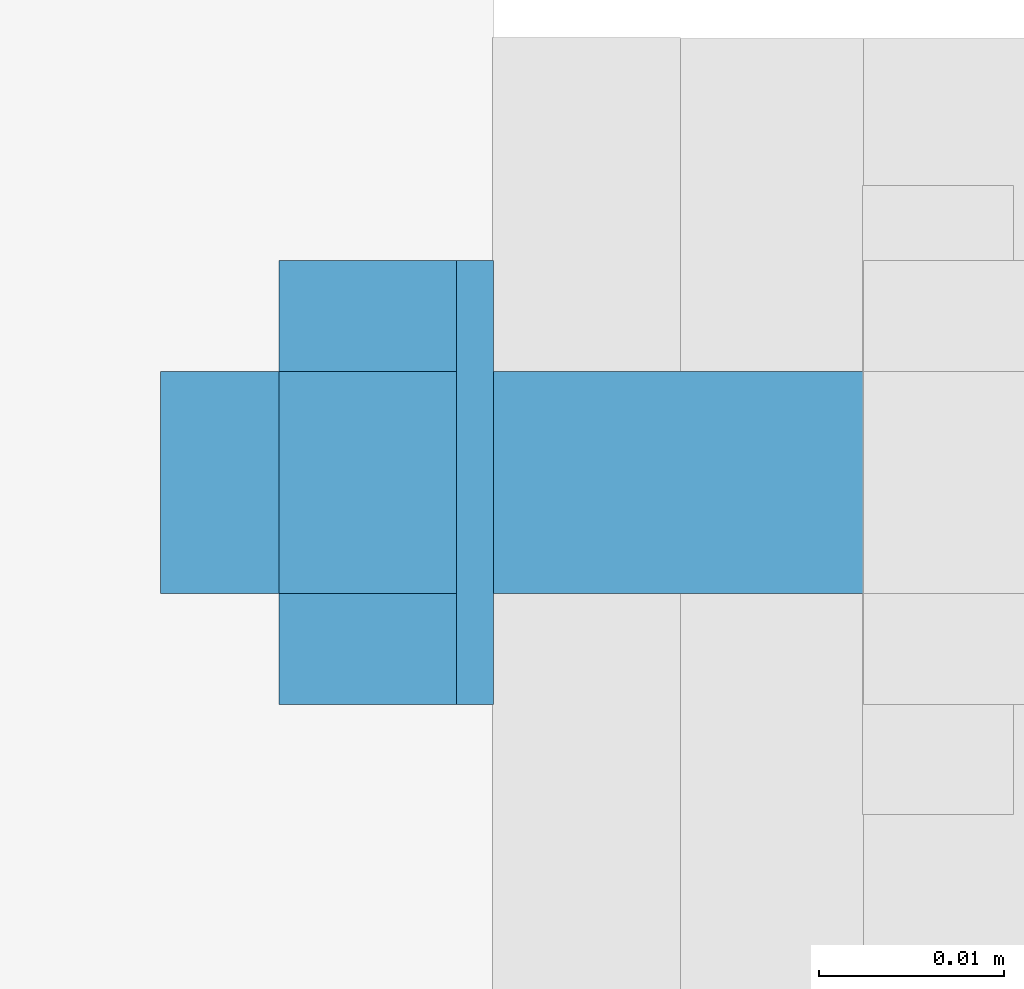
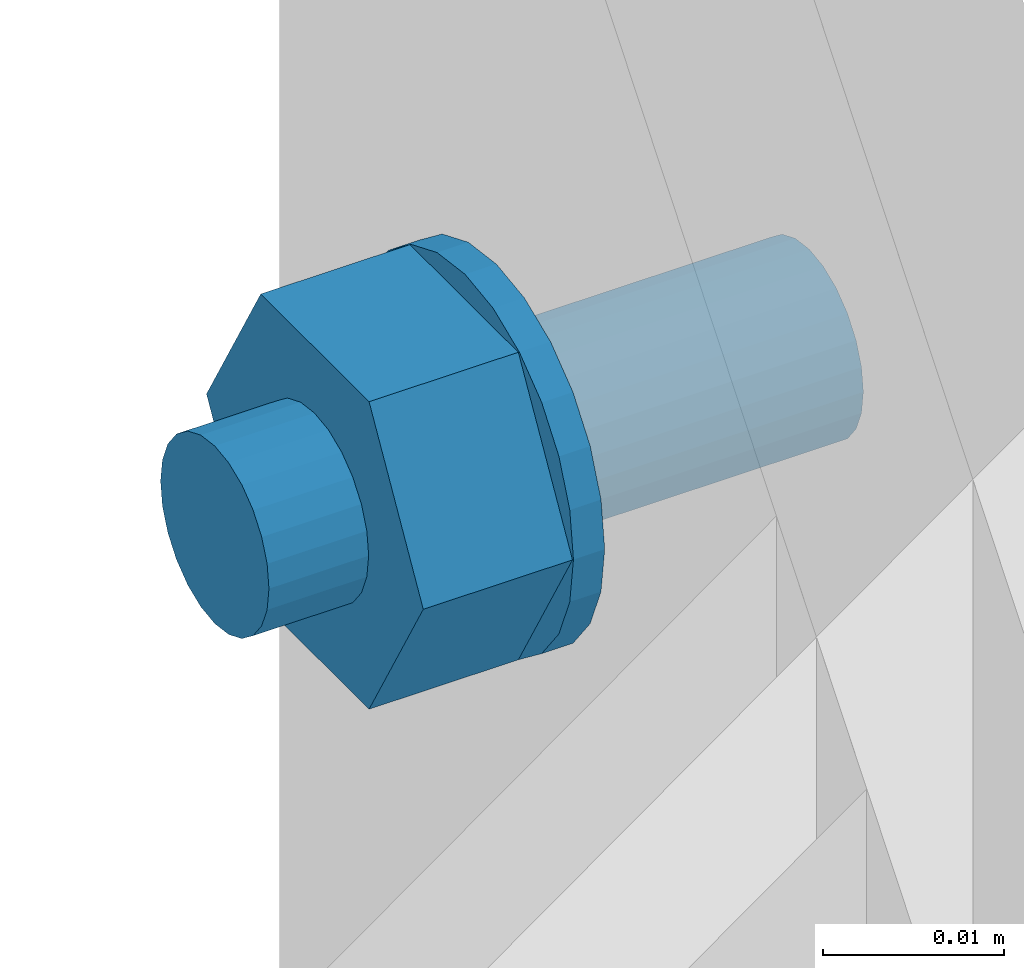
# One storey, part 46 of 66: 3 mechanical fasteners.
"""IFC4 building model written with IfcOpenShell, lengths in metres."""

import ifcopenshell
import ifcopenshell.guid

model = None  # the IFC model being written
_history = None  # IfcOwnerHistory: only IFC2X3 demands one
_inside = {}  # id of a spatial element -> (the spatial element, [elements in it])
_under = {}  # id of a project, library or spatial element -> (it, [spatial elements below it])
_declared = {}  # id of a project -> (the project, [libraries it declares])
_typed = {}  # id of a type object -> (the type object, [elements of that type])
_made_of = {}  # id of a material, layer set ... -> (it, [elements and type objects made of it])


def new_model(schema):
    """Start an empty IFC model of exactly this schema.

    Asked for "IFC4X3", IfcOpenShell would pick the latest addendum, in which some entities
    have other attributes; the version numbers below select the first issue.
    IFC2X3 requires an IfcOwnerHistory on every rooted entity: one is made here for all.
    """
    global model, _history
    if schema == "IFC4X3":
        model = ifcopenshell.file(schema_version=(4, 3, 0, 0))
    else:
        model = ifcopenshell.file(schema=schema)
    _inside.clear()
    _under.clear()
    _declared.clear()
    _typed.clear()
    _made_of.clear()
    _history = None
    if model.schema == "IFC2X3":
        org = make("IfcOrganization", Name="unknown")
        user = make(
            "IfcPersonAndOrganization",
            ThePerson=make("IfcPerson", FamilyName="unknown"),
            TheOrganization=org,
        )
        app = make(
            "IfcApplication",
            ApplicationDeveloper=org,
            Version="unknown",
            ApplicationFullName="unknown",
            ApplicationIdentifier="unknown",
        )
        _history = make(
            "IfcOwnerHistory",
            OwningUser=user,
            OwningApplication=app,
            ChangeAction="ADDED",
            CreationDate=0,
        )
    return model


def make(cls, **values):
    """One entity of the class cls with the attributes given. An attribute that is None is left unset."""
    return model.create_entity(
        cls, **{name: value for name, value in values.items() if value is not None}
    )


def rooted(cls, **values):
    """An entity with a GlobalId (a new one), such as an element, a storey or a relation."""
    return make(cls, GlobalId=ifcopenshell.guid.new(), OwnerHistory=_history, **values)


def si_unit(unit_type, name, prefix=None):
    """IfcSIUnit, for example si_unit("LENGTHUNIT", "METRE", prefix="MILLI")."""
    return make("IfcSIUnit", UnitType=unit_type, Prefix=prefix, Name=name)


def assignment(units):
    """IfcUnitAssignment: the units of a project."""
    return None if units is None else make("IfcUnitAssignment", Units=units)


def point(xyz):
    """IfcCartesianPoint."""
    return None if xyz is None else make("IfcCartesianPoint", Coordinates=xyz)


def direction(xyz):
    """IfcDirection."""
    return None if xyz is None else make("IfcDirection", DirectionRatios=xyz)


def frame(location, z_axis=None, x_axis=None):
    """IfcAxis2Placement3D, a coordinate frame: its origin and axes. An axis left out is left unset."""
    return make(
        "IfcAxis2Placement3D",
        Location=point(location),
        Axis=direction(z_axis),
        RefDirection=direction(x_axis),
    )


def origin_with_axes():
    """The frame at (0, 0, 0) with the z axis (0, 0, 1) and the x axis (1, 0, 0) written out."""
    return frame((0.0, 0.0, 0.0), z_axis=(0.0, 0.0, 1.0), x_axis=(1.0, 0.0, 0.0))


def place(relative_to, where):
    """IfcLocalPlacement: puts the frame where relative to a parent placement (None: the world)."""
    return make(
        "IfcLocalPlacement", PlacementRelTo=relative_to, RelativePlacement=where
    )


def context(
    kind, dimensions, precision=None, world=None, true_north=None, identifier=None
):
    """IfcGeometricRepresentationContext, for example the 3D "Model" context."""
    return make(
        "IfcGeometricRepresentationContext",
        ContextIdentifier=identifier,
        ContextType=kind,
        CoordinateSpaceDimension=dimensions,
        Precision=precision,
        WorldCoordinateSystem=world,
        TrueNorth=true_north,
    )


def project(units=None, contexts=None):
    """IfcProject with its units and contexts."""
    return rooted(
        "IfcProject",
        Name="project",
        RepresentationContexts=contexts,
        UnitsInContext=assignment(units),
    )


def spatial(cls, under=None, at=None, **own):
    """A site, building, storey or space (cls), placed at a placement, below another one or the project."""
    s = rooted(cls, ObjectPlacement=at, **own)
    if under is not None:
        _under.setdefault(under.id(), (under, []))[1].append(s)
    return s


def polyline(points):
    """IfcPolyline through the points."""
    return make("IfcPolyline", Points=[point(p) for p in points])


def outline(outer, holes=None, kind="AREA"):
    """IfcArbitraryClosedProfileDef: a profile drawn as a closed curve; with holes, ...WithVoids."""
    if holes is None:
        return make("IfcArbitraryClosedProfileDef", ProfileType=kind, OuterCurve=outer)
    return make(
        "IfcArbitraryProfileDefWithVoids",
        ProfileType=kind,
        OuterCurve=outer,
        InnerCurves=holes,
    )


def extrude(swept, where, along, depth):
    """IfcExtrudedAreaSolid: the profile swept, set in the frame where, extruded along a direction by depth."""
    return make(
        "IfcExtrudedAreaSolid",
        SweptArea=swept,
        Position=where,
        ExtrudedDirection=direction(along),
        Depth=depth,
    )


def shape(context_of_items, identifier, shape_type, items):
    """IfcShapeRepresentation: the items that make up one representation, for example the "Body"."""
    return make(
        "IfcShapeRepresentation",
        ContextOfItems=context_of_items,
        RepresentationIdentifier=identifier,
        RepresentationType=shape_type,
        Items=items,
    )


def made_of(thing, what):
    """Note that an element or type object is made of a material, layer set ...; save() writes the relation."""
    if what is not None:
        _made_of.setdefault(what.id(), (what, []))[1].append(thing)
    return thing


def type_object(cls, material=None, **own):
    """A type object (cls), such as IfcWallType, which elements share."""
    return made_of(rooted(cls, **own), material)


def element(
    cls,
    number,
    at=None,
    inside=None,
    cuts=None,
    type_object=None,
    material=None,
    context=None,
    identifier="Body",
    shape_type=None,
    held_by="IfcProductDefinitionShape",
    body=None,
    shapes=None,
    **own,
):
    """One element of the class cls, such as IfcWall. Its Tag is "e" and its number.

    at: its placement. inside: the storey or other place that contains it. cuts: it is an
    opening in that element (IfcRelVoidsElement). A single representation is given by context,
    identifier, shape_type and body (its items); several are given by shapes. held_by: the class
    of the entity that holds the representations. save() writes the other relations.
    """
    e = rooted(cls, Tag="e%d" % number, ObjectPlacement=at, **own)
    if body is not None:
        shapes = [shape(context, identifier, shape_type, body)]
    if shapes is not None:
        e.Representation = make(held_by, Representations=shapes)
    if inside is not None:
        _inside.setdefault(inside.id(), (inside, []))[1].append(e)
    if cuts is not None:
        rooted(
            "IfcRelVoidsElement", RelatingBuildingElement=cuts, RelatedOpeningElement=e
        )
    if type_object is not None:
        _typed.setdefault(type_object.id(), (type_object, []))[1].append(e)
    return made_of(e, material)


def aggregate(whole, parts):
    """IfcRelAggregates: a whole, such as a stair, and the parts it consists of."""
    return rooted("IfcRelAggregates", RelatingObject=whole, RelatedObjects=parts)


def save(model, path):
    """Write the relations noted so far, then the file.

    IfcRelAggregates (storeys below a building ...), IfcRelContainedInSpatialStructure (elements
    in a storey), IfcRelDefinesByType, IfcRelAssociatesMaterial and IfcRelDeclares: one each for
    every whole, place, type object, material and project.
    """
    for whole, parts in _under.values():
        aggregate(whole, parts)
    for where, things in _inside.values():
        rooted(
            "IfcRelContainedInSpatialStructure",
            RelatedElements=things,
            RelatingStructure=where,
        )
    for kind, things in _typed.values():
        rooted("IfcRelDefinesByType", RelatedObjects=things, RelatingType=kind)
    for what, things in _made_of.values():
        rooted("IfcRelAssociatesMaterial", RelatedObjects=things, RelatingMaterial=what)
    for by, libraries in _declared.values():
        rooted("IfcRelDeclares", RelatingContext=by, RelatedDefinitions=libraries)
    model.write(path)


model = new_model("IFC4")

# Units and contexts
model_context = context("Model", 3, precision=1e-05, world=origin_with_axes())
ifc_project = project(units=[si_unit("LENGTHUNIT", "METRE"), si_unit("AREAUNIT", "SQUARE_METRE"), si_unit("VOLUMEUNIT", "CUBIC_METRE"), si_unit("MASSUNIT", "GRAM", prefix="KILO"), si_unit("TIMEUNIT", "SECOND"), si_unit("PLANEANGLEUNIT", "RADIAN"), si_unit("SOLIDANGLEUNIT", "STERADIAN"), si_unit("THERMODYNAMICTEMPERATUREUNIT", "DEGREE_CELSIUS")], contexts=[model_context])

# Site, building, storey
placement_1 = place(None, origin_with_axes())
site = spatial("IfcSite", under=ifc_project, at=placement_1, Name="Italia", CompositionType="ELEMENT")
building = spatial("IfcBuilding", under=site, at=placement_1, Name="Uffici", CompositionType="ELEMENT")
storey_placement = place(None, frame((0.0, 0.0, 3.299999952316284), z_axis=(0.0, 0.0, 1.0), x_axis=(1.0, 0.0, 0.0)))
storey = spatial("IfcBuildingStorey", under=building, at=storey_placement, Name="Storey 1", CompositionType="ELEMENT", Elevation=3.299999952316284)

# Mechanical fasteners
mechanical_fastener_type_1 = type_object("IfcMechanicalFastenerType", Name="Collegamento 0112_0113", PredefinedType="BOLT")
placement_2 = place(placement_1, origin_with_axes())
mechanical_fastener_1_placement = place(placement_2, origin_with_axes())
element("IfcMechanicalFastener", 1, at=mechanical_fastener_1_placement, inside=storey, type_object=mechanical_fastener_type_1, Name="Collegamento 0112_0113", NominalDiameter=0.012, context=model_context, shape_type="SweptSolid", body=[
    extrude(outline(polyline([(0.0, 0.0), (-0.000204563, -0.00155282), (-0.000803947, -0.00300002), (-0.00175762, -0.00424266), (-0.00300026, -0.00519609), (-0.00444698, -0.00579548), (-0.00600004, -0.00600004), (-0.0075531, -0.00579548), (-0.00899982, -0.00519609), (-0.0102425, -0.00424266), (-0.0111961, -0.00300002), (-0.0117955, -0.00155282), (-0.0120001, 0.0), (-0.0117955, 0.00155282), (-0.0111961, 0.00300002), (-0.0102425, 0.00424266), (-0.00899982, 0.00519609), (-0.0075531, 0.00579548), (-0.00600004, 0.00600004), (-0.00444698, 0.00579548), (-0.00300026, 0.00519609), (-0.00175762, 0.00424266), (-0.000803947, 0.00300002), (-0.000204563, 0.00155282), (0.0, 0.0)])), frame((3.307, 5.432, 3.231), z_axis=(1.0, 0.0, 0.0), x_axis=(0.0, 1.0, 0.0)), (0.0, 0.0, 1.0), 0.0379999),
])
mechanical_fastener_type_2 = type_object("IfcMechanicalFastenerType", Name="Collegamento 0112_0113", PredefinedType="BOLT")
mechanical_fastener_2_placement = place(placement_2, origin_with_axes())
element("IfcMechanicalFastener", 2, at=mechanical_fastener_2_placement, inside=storey, type_object=mechanical_fastener_type_2, Name="Collegamento 0112_0113", NominalDiameter=0.0119996, context=model_context, shape_type="SweptSolid", body=[
    extrude(outline(polyline([(0.0, 0.0), (-0.0119996, 0.0), (-0.0179996, 0.0103924), (-0.0119996, 0.0207846), (0.0, 0.0207846), (0.00600004, 0.0103924), (0.0, 0.0)])), frame((3.3134, 5.432, 3.22061), z_axis=(1.0, 0.0, 0.0), x_axis=(0.0, 1.0, 0.0)), (0.0, 0.0, 1.0), 0.00959992),
])
mechanical_fastener_type_3 = type_object("IfcMechanicalFastenerType", Name="Collegamento 0112_0113", PredefinedType="BOLT")
mechanical_fastener_3_placement = place(placement_2, origin_with_axes())
element("IfcMechanicalFastener", 3, at=mechanical_fastener_3_placement, inside=storey, type_object=mechanical_fastener_type_3, Name="Collegamento 0112_0113", NominalDiameter=0.024, context=model_context, shape_type="SweptSolid", body=[
    extrude(outline(polyline([(0.0, 0.0), (-0.000409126, -0.00310588), (-0.00160789, -0.00600004), (-0.00351477, -0.00848532), (-0.00600004, -0.0103922), (-0.00889444, -0.0115912), (-0.0120001, -0.0120001), (-0.0151057, -0.0115912), (-0.0180001, -0.0103922), (-0.0204854, -0.00848532), (-0.0223923, -0.00600004), (-0.023591, -0.00310588), (-0.0240002, 0.0), (-0.023591, 0.00310588), (-0.0223923, 0.00600004), (-0.0204854, 0.00848532), (-0.0180001, 0.0103922), (-0.0151057, 0.0115912), (-0.0120001, 0.0120001), (-0.00889444, 0.0115912), (-0.00600004, 0.0103922), (-0.00351477, 0.00848532), (-0.00160789, 0.00600004), (-0.000409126, 0.00310588), (0.0, 0.0)])), frame((3.323, 5.438, 3.231), z_axis=(1.0, 0.0, 0.0), x_axis=(0.0, 1.0, 0.0)), (0.0, 0.0, 1.0), 0.00200009),
])

save(model, "model.ifc")
